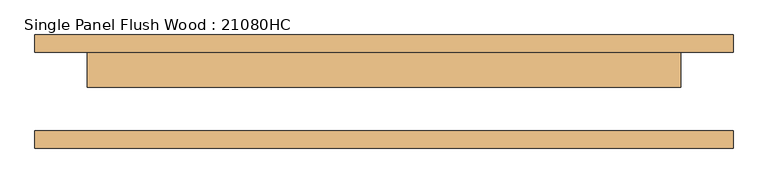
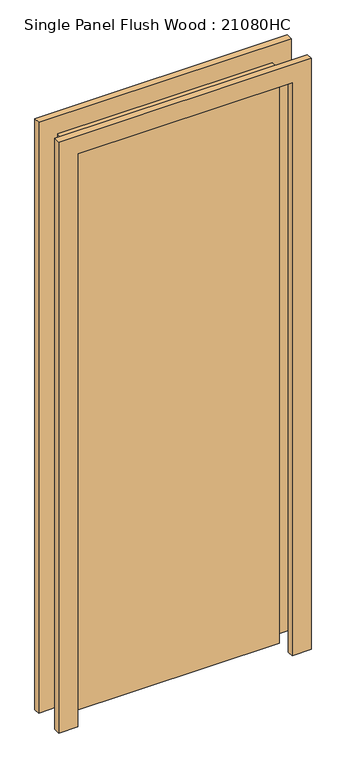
"""IFC4 building model written with IfcOpenShell, lengths in millimetres: door geometry, Single Panel Flush Wood : 21080HC."""

from ifc_helpers import new_model, si_unit, frame, origin, origin_with_axes, place, context, project, spatial, polyline, outline, extrude, source, transform, mapped, element, save


def single_panel_flush_wood_21080hc_455a9f4f(model_context):
    return source(origin(), model_context, "Body", "SweptSolid", [
        extrude(outline(polyline([(2514.6, -508.0), (0.0, -508.0), (0.0, -431.8), (2438.4, -431.8), (2438.4, 431.8), (0.0, 431.8), (0.0, 508.0), (2514.6, 508.0), (2514.6, -508.0)])), frame((0.0, 57.15, 0.0), z_axis=(0.0, 1.0, 0.0), x_axis=(0.0, 0.0, 1.0)), (0.0, 0.0, 1.0), 25.4),
        extrude(outline(polyline([(2514.6, 508.0), (2514.6, -508.0), (0.0, -508.0), (0.0, -431.8), (2438.4, -431.8), (2438.4, 431.8), (0.0, 431.8), (0.0, 508.0), (2514.6, 508.0)])), frame((0.0, -82.55, 0.0), z_axis=(0.0, 1.0, 0.0), x_axis=(0.0, 0.0, 1.0)), (0.0, 0.0, 1.0), 25.4),
        extrude(outline(polyline([(431.8, 6.35), (-431.8, 6.35), (-431.8, 57.15), (431.8, 57.15), (431.8, 6.35)])), origin_with_axes(), (0.0, 0.0, 1.0), 2438.4),
    ])


if __name__ == "__main__":
    model = new_model("IFC4")
    model_context = context("Model", 3, world=origin())
    ifc_project = project(units=[si_unit("LENGTHUNIT", "METRE", prefix="MILLI")], contexts=[model_context])
    site = spatial("IfcSite", under=ifc_project)
    building = spatial("IfcBuilding", under=site)
    placement = place(None, origin())
    single_panel_flush_wood_21080hc_shape = single_panel_flush_wood_21080hc_455a9f4f(model_context)
    element("IfcDoor", 1, ObjectType="Single Panel Flush Wood : 21080HC", at=placement, inside=building, context=model_context, shape_type="MappedRepresentation", body=[
        mapped(single_panel_flush_wood_21080hc_shape, transform((0.0, 0.0, 0.0), x_axis=(1.0, 0.0, 0.0), y_axis=(0.0, 1.0, 0.0), z_axis=(0.0, 0.0, 1.0))),
    ])
    save(model, "model.ifc")
